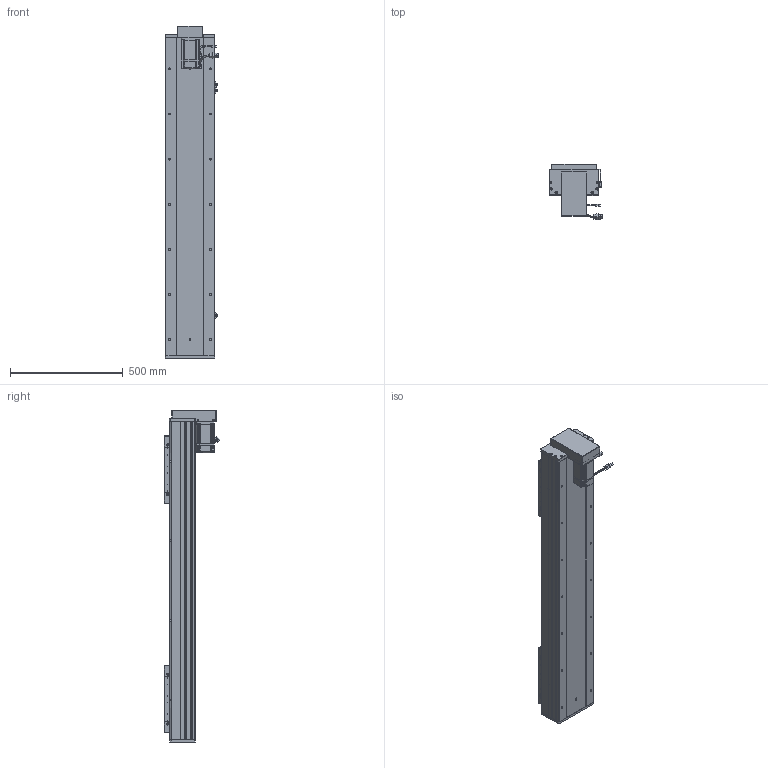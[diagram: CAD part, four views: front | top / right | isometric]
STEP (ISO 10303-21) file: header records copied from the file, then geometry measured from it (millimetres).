
FILE_DESCRIPTION (( 'STEP AP203' ), '1' );
FILE_NAME ('RY220F-L2525-300-BK.SLDASM_1000.step', '2022-07-04T01:20:51', ( '' ), ( '' ), 'SwSTEP 2.0', 'SolidWorks 2016', '' );
FILE_SCHEMA (( 'CONFIG_CONTROL_DESIGN' ));
Length unit declared in the file: millimetre
Products named in the file (15): 覜茼ん672; 侐源滅袉蝶; RY220F-滅鳥奻裔; RY220F-祥凄詩湍-蛌殏-300_1000; 滅袉蝶18-24; RY220F-蛌殏奻裔啣-300_1000; RY220F-672覜茼んえ; RY220F綴裔啣; RY220狟殏萇儂欶; RY220F蛌殏菁釱-300_1000; RY220F-詩湍揤踡輸; RY220F臏賑釱25-32佪裝; RY220F-L2525-300-BK.SLDASM_1000; 怢湛750W_ECMA-CX0807ES; RY220狟殏萇儂假蚾啣
Assembly tree (24 placements, depth 2):
  RY220F-L2525-300-BK.SLDASM_1000
    RY220F蛌殏菁釱-300_1000
    RY220F-蛌殏奻裔啣-300_1000  x2
    怢湛750W_ECMA-CX0807ES
    RY220F臏賑釱25-32佪裝  x2
    RY220F-滅鳥奻裔  x2
    滅袉蝶18-24  x3
    RY220F綴裔啣
    RY220F-祥凄詩湍-蛌殏-300_1000
    RY220F-詩湍揤踡輸  x2
    覜茼ん672  x3
    RY220F-672覜茼んえ  x2
    侐源滅袉蝶  x2
    RY220狟殏萇儂假蚾啣
    RY220狟殏萇儂欶
Bounding box: 237.27 x 247.24 x 1471 mm (x, y, z)
Volume: 14422527.3 mm3; surface area: 3711426.2 mm2
Topology: 25 solids, 25 shells, 2755 faces, 7490 edges, 4637 vertices
Faces by surface type: cylinder 1222, plane 1062, cone 400, bspline 45, sphere 16, torus 10
Entity records: 68245 total; most frequent: CARTESIAN_POINT 18591, ORIENTED_EDGE 10050, DIRECTION 9725, EDGE_CURVE 5025, AXIS2_PLACEMENT_3D 3438, VERTEX_POINT 3253, LINE 2849, VECTOR 2849
